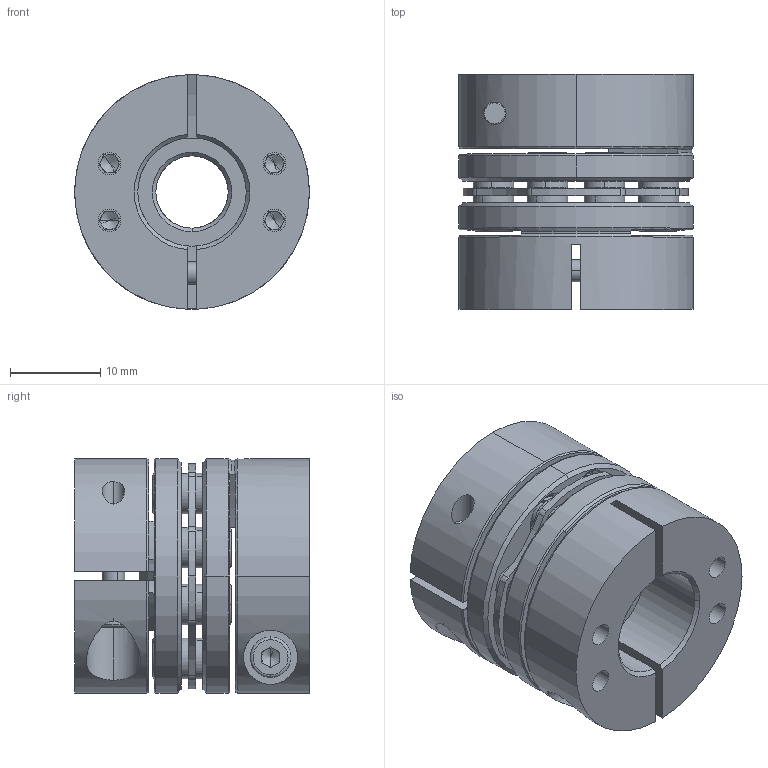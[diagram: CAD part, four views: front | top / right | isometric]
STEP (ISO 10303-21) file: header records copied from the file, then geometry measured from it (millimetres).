
FILE_DESCRIPTION (( 'STEP AP203' ), '1' );
FILE_NAME ('LDG-D26-8-12.STEP', '2021-10-28T03:30:47', ( '' ), ( '' ), 'SwSTEP 2.0', 'SolidWorks 2018', '' );
FILE_SCHEMA (( 'CONFIG_CONTROL_DESIGN' ));
Length unit declared in the file: millimetre
Products named in the file (2): LDG-D26-8-12; 錨璃2^LDG-D26蚾饜芞1
Assembly tree (1 placements, depth 2):
  LDG-D26-8-12
    錨璃2^LDG-D26蚾饜芞1
Bounding box: 26 x 26 x 26 mm (x, y, z)
Volume: 9454.5 mm3; surface area: 8883.2 mm2
Topology: 1 solids, 21 shells, 765 faces, 1872 edges, 1159 vertices
Faces by surface type: cylinder 301, plane 244, cone 200, torus 20
Entity records: 23057 total; most frequent: DIRECTION 4281, CARTESIAN_POINT 4164, ORIENTED_EDGE 3688, EDGE_CURVE 1844, AXIS2_PLACEMENT_3D 1740, VERTEX_POINT 1159, CIRCLE 971, EDGE_LOOP 909
